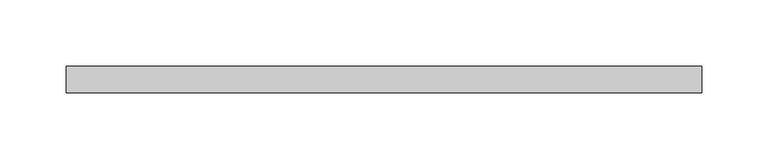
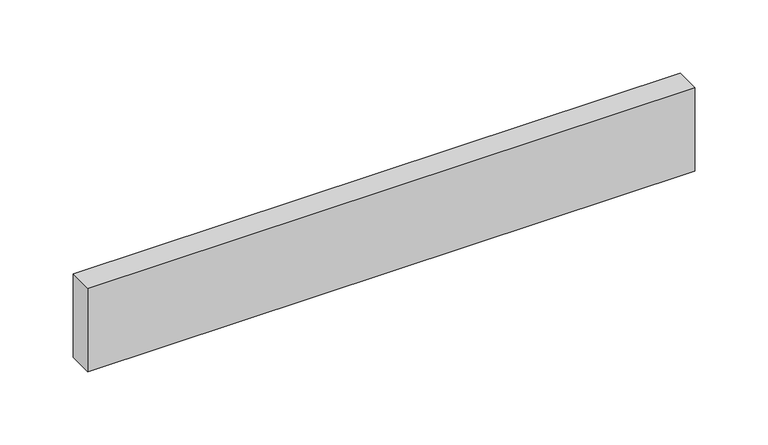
"""IFC4 building model written with IfcOpenShell, lengths in millimetres: furniture geometry, Frontispício : Frontispício."""

from ifc_helpers import new_model, si_unit, origin, origin_with_axes, place, context, project, spatial, polyline, outline, extrude, source, transform, mapped, element, save


def furniture_ba68da85(model_context):
    return source(origin(), model_context, "Body", "SweptSolid", [
        extrude(outline(polyline([(173.677619, 0.0), (173.677619, -20.0), (-306.322381, -20.0), (-306.322381, 0.0), (173.677619, 0.0)])), origin_with_axes(), (0.0, 0.0, 1.0), 70.0),
    ])


if __name__ == "__main__":
    model = new_model("IFC4")
    model_context = context("Model", 3, world=origin())
    ifc_project = project(units=[si_unit("LENGTHUNIT", "METRE", prefix="MILLI")], contexts=[model_context])
    site = spatial("IfcSite", under=ifc_project)
    building = spatial("IfcBuilding", under=site)
    placement = place(None, origin())
    furniture_shape = furniture_ba68da85(model_context)
    element("IfcFurniture", 1, ObjectType="Frontispício : Frontispício", at=placement, inside=building, context=model_context, shape_type="MappedRepresentation", body=[
        mapped(furniture_shape, transform((0.0, 0.0, 0.0), x_axis=(1.0, 0.0, 0.0), y_axis=(0.0, 1.0, 0.0), z_axis=(0.0, 0.0, 1.0))),
    ])
    save(model, "model.ifc")
